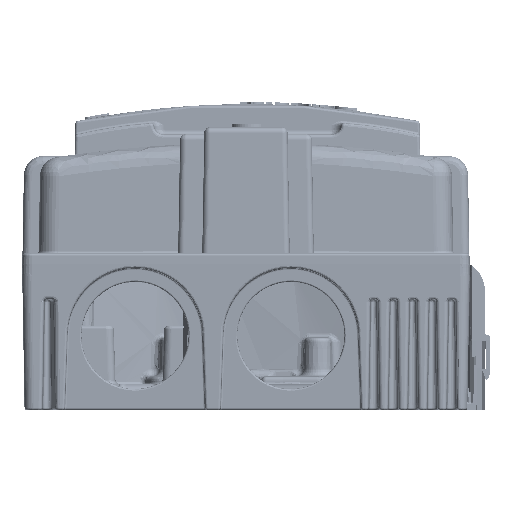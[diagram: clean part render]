
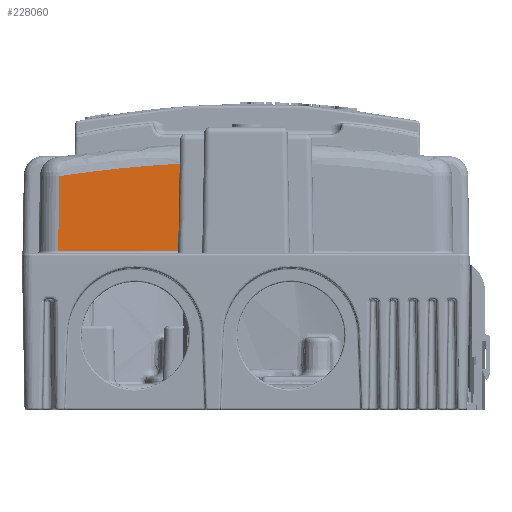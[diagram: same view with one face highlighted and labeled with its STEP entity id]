
A CAD part, front view. The second image highlights one B-rep face of the part: STEP entity #228060.
In plain terms, the highlighted planar face has unit normal (0, -1, 0.018).
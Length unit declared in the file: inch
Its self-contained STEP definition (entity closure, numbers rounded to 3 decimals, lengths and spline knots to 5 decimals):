
#227533=CARTESIAN_POINT('',(-0.87027,-4.01573,0.35948));
#227534=VERTEX_POINT('',#227533);
#227544=CARTESIAN_POINT('',(-2.41057,-4.01573,0.35948));
#227545=VERTEX_POINT('',#227544);
#227546=CARTESIAN_POINT('',(-0.87027,-4.01573,0.35948));
#227547=DIRECTION('',(-1.0,0.0,0.0));
#227548=VECTOR('',#227547,1.5403);
#227549=LINE('',#227546,#227548);
#227550=EDGE_CURVE('',#227534,#227545,#227549,.T.);
#228017=CARTESIAN_POINT('',(-2.39378,-3.99894,1.32138));
#228018=VERTEX_POINT('',#228017);
#228019=CARTESIAN_POINT('',(-2.41057,-4.01573,0.35948));
#228020=DIRECTION('',(0.017,0.017,1.));
#228021=VECTOR('',#228020,0.9622);
#228022=LINE('',#228019,#228021);
#228023=EDGE_CURVE('',#227545,#228018,#228022,.T.);
#228036=CARTESIAN_POINT('',(2.66105,-4.01625,0.33));
#228037=DIRECTION('',(0.,-1.,0.017));
#228038=DIRECTION('',(1.0,0.0,0.0));
#228039=AXIS2_PLACEMENT_3D('',#228036,#228037,#228038);
#228040=PLANE('',#228039);
#228041=ORIENTED_EDGE('',*,*,#227550,.F.);
#228042=CARTESIAN_POINT('',(-0.85069,-3.99615,1.48137));
#228043=VERTEX_POINT('',#228042);
#228044=CARTESIAN_POINT('',(-0.87027,-4.01573,0.35948));
#228045=DIRECTION('',(0.017,0.017,1.));
#228046=VECTOR('',#228045,1.12224);
#228047=LINE('',#228044,#228046);
#228048=EDGE_CURVE('',#227534,#228043,#228047,.T.);
#228049=ORIENTED_EDGE('',*,*,#228048,.T.);
#228050=CARTESIAN_POINT('',(0.00005,-4.27066,-14.24564));
#228051=DIRECTION('',(0.,1.,-0.017));
#228052=DIRECTION('',(0.,0.017,1.));
#228053=AXIS2_PLACEMENT_3D('',#228050,#228051,#228052);
#228054=ELLIPSE('',#228053,15.7524,15.75);
#228055=EDGE_CURVE('',#228018,#228043,#228054,.T.);
#228056=ORIENTED_EDGE('',*,*,#228055,.F.);
#228057=ORIENTED_EDGE('',*,*,#228023,.F.);
#228058=EDGE_LOOP('',(#228041,#228049,#228056,#228057));
#228059=FACE_OUTER_BOUND('',#228058,.T.);
#228060=ADVANCED_FACE('',(#228059),#228040,.T.);
